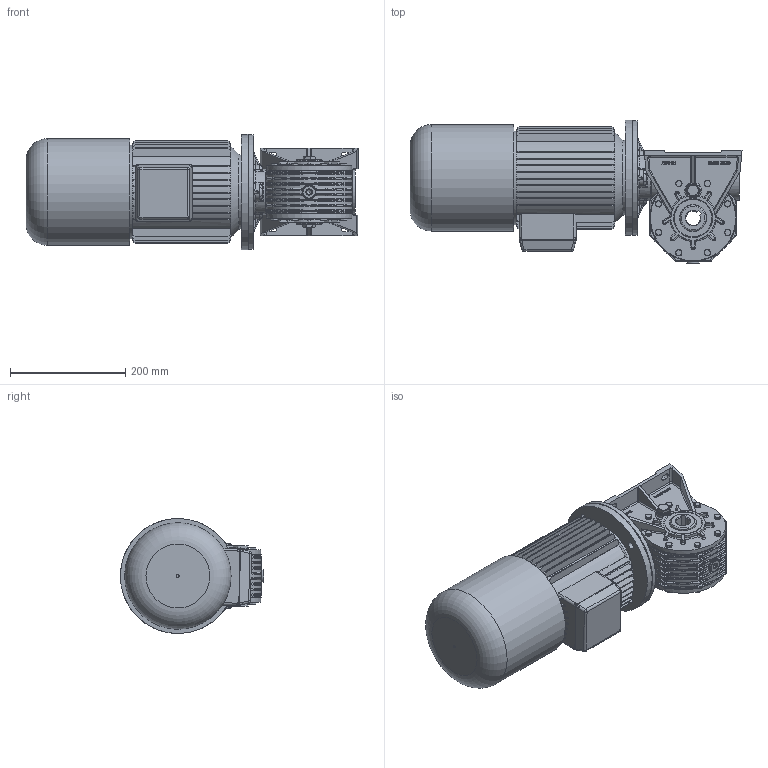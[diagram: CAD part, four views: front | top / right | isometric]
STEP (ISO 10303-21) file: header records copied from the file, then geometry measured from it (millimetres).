
FILE_DESCRIPTION((''),'2;1');
FILE_NAME('Y:\Archivi Inventor\Prog_01\GRAND_30\Figurini\MRV30 sito\90L autofrenante\MRV30_P1_90L_B5.stp','2013-02-06T11:03:57',('tech3'),(''),'Autodesk Inventor 2013','Autodesk Inventor 2013','');
FILE_SCHEMA(('AUTOMOTIVE_DESIGN { 1 0 10303 214 1 1 1 1 }'));
Length unit declared in the file: millimetre
Products named in the file (16): MRV30_90s_90L; MRV30; 0103001-A2 fig; 0103008.A1 fig F=25; PARAOLIO 45x65x10; RCA_52x7; Guarnizione 3_8 GAS; Tappo 3_8 GAS_esagn_incsst; 0103010-A0 fig; 0103029; DIN EN 24017 M6 x 20; Tappo3_8 GAS; 0103028; UNI 5931 M 8 x  25; 0103006; motori B5 brake 90L
Assembly tree (41 placements, depth 3):
  MRV30_90s_90L
    MRV30
      0103001-A2 fig
      0103008.A1 fig F=25
      PARAOLIO 45x65x10  x2
      RCA_52x7
      Guarnizione 3_8 GAS  x4
      Tappo 3_8 GAS_esagn_incsst  x2
      0103010-A0 fig  x2
      0103029  x2
      DIN EN 24017 M6 x 20  x16
      Tappo3_8 GAS  x2
      0103028
      UNI 5931 M 8 x  25  x4
    0103006
    motori B5 brake 90L
Bounding box: 576.9 x 249.05 x 199.97 mm (x, y, z)
Volume: 7712185.4 mm3; surface area: 1075088.4 mm2
Topology: 41 solids, 44 shells, 2670 faces, 6549 edges, 4024 vertices
Faces by surface type: plane 1350, cylinder 656, bspline 312, torus 161, cone 159, sphere 32
Full cylindrical faces by diameter (mm): 2 x2, 4.917 x16, 5 x1, 6 x16, 6.5 x32, 6.647 x4, 8 x6, 8.5 x8, 8.88 x16, 11 x16, 11.5 x4, 13 x4, 13.046 x2, 14.95 x4, 16.3 x4, 16.5 x2, 22 x8, 24 x1, 25 x3, 43 x1, 45 x4, 45.76 x1, 50.881 x2, 52 x6, 55 x1, 60.5 x2, 65 x4, 75 x2, 77 x1, 78 x1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
Entity records: 61367 total; most frequent: CARTESIAN_POINT 19158, ORIENTED_EDGE 8434, DIRECTION 8361, EDGE_CURVE 4217, AXIS2_PLACEMENT_3D 3071, VERTEX_POINT 2689, VECTOR 2219, LINE 2219
